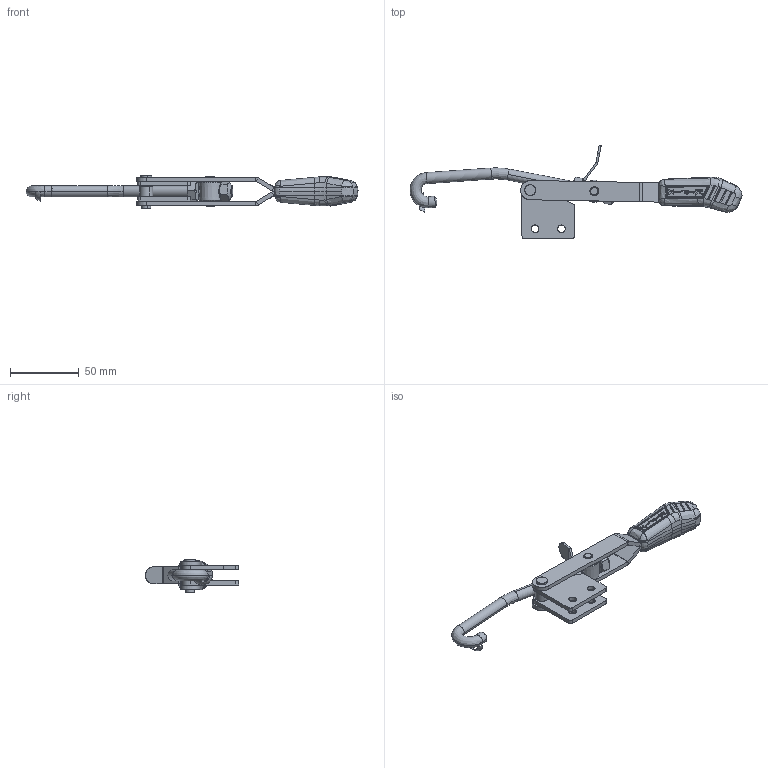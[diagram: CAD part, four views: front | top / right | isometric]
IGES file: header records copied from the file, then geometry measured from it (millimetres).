
Start section: SolidWorks IGES file using analytic representation for surfaces
Global section: file name: C:\Projetos\Grampos\KF-153\KF-153 R\KF-153 R.IGS; native system: SolidWorks 2018; preprocessor: SolidWorks 2018; author: Ricardo; date: 180612.143854; units: millimetre
Bounding box: 240.78 x 67.66 x 24.5 mm (x, y, z)
Surface area: 31378.5 mm2 (no closed solid volume)
Topology: 0 solids, 0 shells, 823 faces, 7681 edges, 7627 vertices
Faces by surface type: bspline 496, revolution 327
